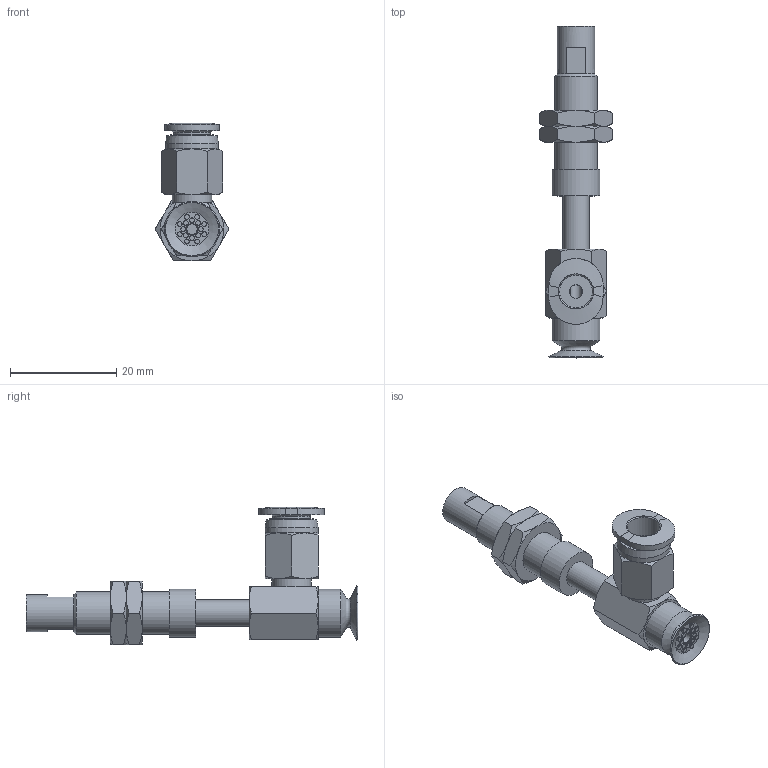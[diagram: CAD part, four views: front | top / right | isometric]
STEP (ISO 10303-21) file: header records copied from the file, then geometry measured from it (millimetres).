
FILE_DESCRIPTION(('STEP AP203'),'1');
FILE_NAME('-O.stp','2025-02-11T06:08:23',(' '),(' '),'Spatial InterOp 3D',' ',' ');
FILE_SCHEMA(('CONFIG_CONTROL_DESIGN'));
Length unit declared in the file: millimetre
Products named in the file (7): BNABPAYS-10A-10-※-O; NAPAYS-10A-10--M; NAPAYS-10A-10--F; Nut-10A-S; CONNECTOR-10A-10-PA; PC-C_06-M5; BPAG-10A-※_3D
Assembly tree (7 placements, depth 2):
  BNABPAYS-10A-10-※-O
    NAPAYS-10A-10--M
    NAPAYS-10A-10--F
    Nut-10A-S  x2
    CONNECTOR-10A-10-PA
    PC-C_06-M5
    BPAG-10A-※_3D
Bounding box: 13.86 x 62.5 x 25.98 mm (x, y, z)
Volume: 3495.8 mm3; surface area: 5329.2 mm2
Topology: 6 solids, 9 shells, 212 faces, 421 edges, 257 vertices
Faces by surface type: plane 84, cone 67, cylinder 42, torus 12, bspline 4, revolution 3
Full cylindrical faces by diameter (mm): 0.9 x16, 2 x2, 4 x4, 4.134 x2, 5 x4, 6 x2, 7 x2, 7.188 x2, 7.4 x1, 8 x1, 8.2 x1, 9 x2, 10 x1
Entity records: 5260 total; most frequent: CARTESIAN_POINT 1408, DIRECTION 745, ORIENTED_EDGE 586, AXIS2_PLACEMENT_3D 342, EDGE_LOOP 300, EDGE_CURVE 295, VERTEX_POINT 219, FACE_OUTER_BOUND 180
